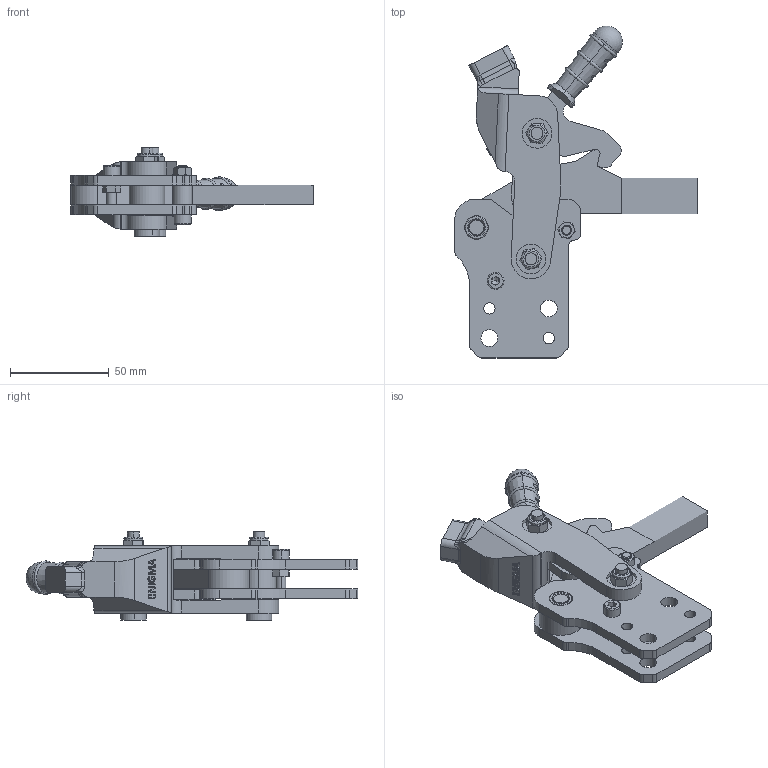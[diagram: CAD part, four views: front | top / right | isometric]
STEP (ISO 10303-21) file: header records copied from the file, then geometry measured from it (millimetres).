
FILE_DESCRIPTION (( 'STEP AP214' ), '1' );
FILE_NAME ('1523_D.STEP', '2020-07-22T15:13:57', ( '' ), ( '' ), 'SwSTEP 2.0', 'SolidWorks 2019', '' );
FILE_SCHEMA (( 'AUTOMOTIVE_DESIGN' ));
Length unit declared in the file: millimetre
Products named in the file (17): Aynalama1563_D_govde - Kopya; M5 Somun; 1533_cap8x18_ara mesafe burcu; socket head cap screw 4762_din_EN ISO 4762 M5 x 25 - 22N; 1563_baský kolu; 1523_D; 1533_mafsal; 1533_cap5x10_on paralel burc; G39x6x8x30; 1563_kilit mandal; 1533_dovme mafsal; M6 fiberli Somun; 1563_D_govde - Kopya; socket head cap screw 4762_din_EN ISO 4762 M5 x 20 - 20N; 1533_Cap8x20 Týrtýllý Pim; C45 Tutamak; Burc_1503_12x8x5
Assembly tree (27 placements, depth 2):
  1523_D
    1563_D_govde - Kopya
    1533_mafsal  x2
    1533_dovme mafsal
    G39x6x8x30  x2
    M6 fiberli Somun  x2
    1533_Cap8x20 Týrtýllý Pim  x2
    1533_cap8x18_ara mesafe burcu
    Burc_1503_12x8x5  x7
    1563_baský kolu
    M5 Somun  x2
    socket head cap screw 4762_din_EN ISO 4762 M5 x 20 - 20N
    1563_kilit mandal
    C45 Tutamak
    socket head cap screw 4762_din_EN ISO 4762 M5 x 25 - 22N
    1533_cap5x10_on paralel burc
    Aynalama1563_D_govde - Kopya
Bounding box: 122.5 x 167.67 x 44.5 mm (x, y, z)
Volume: 146814.4 mm3; surface area: 68109.8 mm2
Topology: 27 solids, 27 shells, 1736 faces, 4493 edges, 2930 vertices
Faces by surface type: plane 1019, cylinder 276, bspline 265, cone 132, torus 42, sphere 2
Entity records: 50446 total; most frequent: CARTESIAN_POINT 19582, ORIENTED_EDGE 5750, DIRECTION 4541, EDGE_CURVE 2875, VERTEX_POINT 1879, LINE 1617, VECTOR 1617, AXIS2_PLACEMENT_3D 1462
